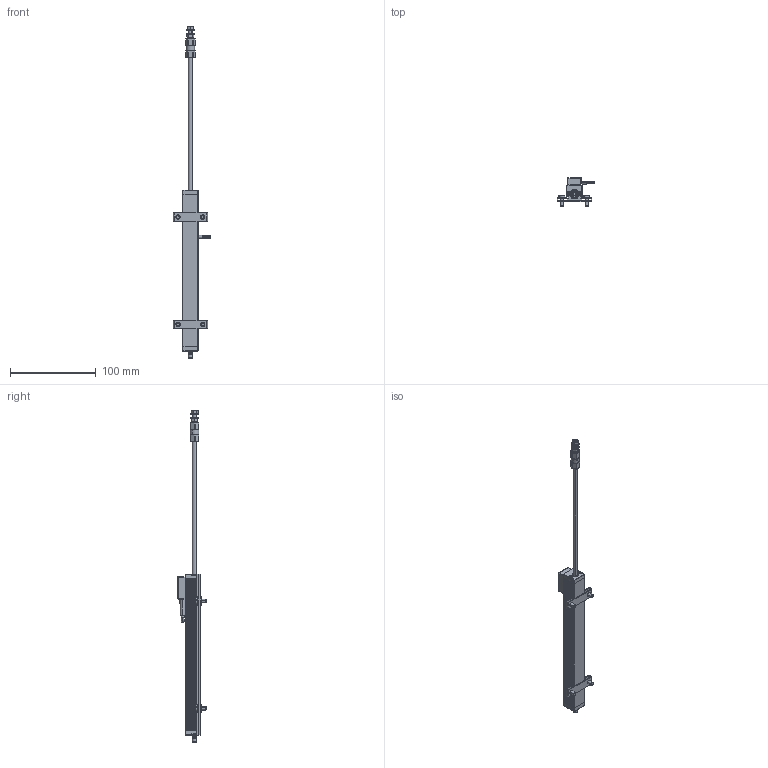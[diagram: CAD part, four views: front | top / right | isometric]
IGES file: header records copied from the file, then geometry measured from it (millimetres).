
Start section: SolidWorks IGES file using analytic representation for surfaces
Global section: file name: E:\Salzinger\I-net_3D\T-Serie_Essentials\T_TS_TR_TRS_-_SLDPRTs\T_150.IGS; native system: SolidWorks 2008; preprocessor: SolidWorks 2008; author: salzinger; date: 081105.111436; units: millimetre
Bounding box: 44.08 x 33.2 x 388 mm (x, y, z)
Surface area: 35973.6 mm2 (no closed solid volume)
Topology: 0 solids, 0 shells, 1154 faces, 11908 edges, 11890 vertices
Faces by surface type: revolution 704, bspline 450
